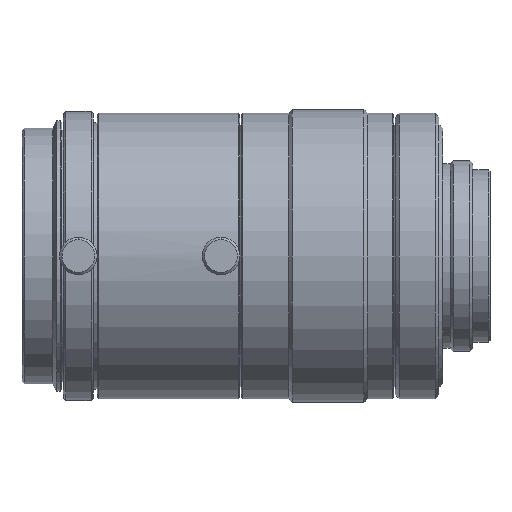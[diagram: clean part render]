
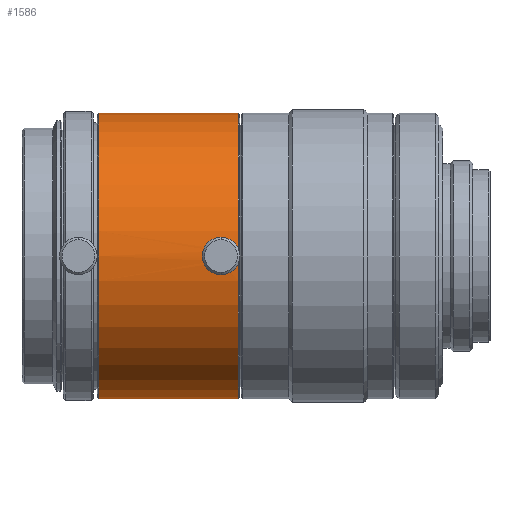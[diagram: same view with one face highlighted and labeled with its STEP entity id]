
A CAD part, front view. The second image highlights one B-rep face of the part: STEP entity #1586.
In plain terms, the highlighted cylindrical face has radius 19 mm (diameter 38 mm), a partial arc.
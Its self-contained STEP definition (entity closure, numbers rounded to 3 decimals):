
#4 = CARTESIAN_POINT ( 'NONE',  ( -47.287, -18.975, 0.974 ) ) ;
#65 = VERTEX_POINT ( 'NONE', #2289 ) ;
#192 = EDGE_CURVE ( 'NONE', #1314, #1153, #3506, .T. ) ;
#196 = CARTESIAN_POINT ( 'NONE',  ( -47.026, -18.974, -1. ) ) ;
#219 = DIRECTION ( 'NONE',  ( 1., 0., 0. ) ) ;
#286 = ORIENTED_EDGE ( 'NONE', *, *, #192, .T. ) ;
#356 = EDGE_CURVE ( 'NONE', #3412, #3391, #1395, .T. ) ;
#447 = AXIS2_PLACEMENT_3D ( 'NONE', #1598, #771, #2419 ) ;
#493 = CARTESIAN_POINT ( 'NONE',  ( -46.152, -18.994, -0.503 ) ) ;
#563 = CARTESIAN_POINT ( 'NONE',  ( -47.026, -18.974, -1. ) ) ;
#569 = CARTESIAN_POINT ( 'NONE',  ( -63.326, 0., 0. ) ) ;
#660 = CARTESIAN_POINT ( 'NONE',  ( 0., 0., 19. ) ) ;
#705 = ORIENTED_EDGE ( 'NONE', *, *, #1484, .F. ) ;
#720 = CARTESIAN_POINT ( 'NONE',  ( -44.726, 0., 19. ) ) ;
#742 = CARTESIAN_POINT ( 'NONE',  ( -46.226, -18.99, -0.614 ) ) ;
#771 = DIRECTION ( 'NONE',  ( 1., 0., 0. ) ) ;
#777 = CARTESIAN_POINT ( 'NONE',  ( -47.641, -18.983, -0.799 ) ) ;
#780 = CARTESIAN_POINT ( 'NONE',  ( -46.523, -18.98, 0.874 ) ) ;
#801 = CARTESIAN_POINT ( 'NONE',  ( -47.825, -18.99, -0.615 ) ) ;
#807 = ORIENTED_EDGE ( 'NONE', *, *, #821, .F. ) ;
#821 = EDGE_CURVE ( 'NONE', #65, #1328, #1515, .T. ) ;
#825 = CARTESIAN_POINT ( 'NONE',  ( -47.288, -18.975, -0.974 ) ) ;
#863 = CARTESIAN_POINT ( 'NONE',  ( 0., 0., -19. ) ) ;
#923 = DIRECTION ( 'NONE',  ( 1., 0., 0. ) ) ;
#932 = AXIS2_PLACEMENT_3D ( 'NONE', #2948, #219, #2409 ) ;
#968 = EDGE_LOOP ( 'NONE', ( #286, #1883 ) ) ;
#1022 = CARTESIAN_POINT ( 'NONE',  ( -63.326, 0., -19. ) ) ;
#1047 = CARTESIAN_POINT ( 'NONE',  ( -47.827, -18.99, 0.614 ) ) ;
#1060 = EDGE_LOOP ( 'NONE', ( #807, #1642, #2842, #705 ) ) ;
#1097 = CIRCLE ( 'NONE', #1242, 19. ) ;
#1098 = CARTESIAN_POINT ( 'NONE',  ( -47.9, -18.994, -0.503 ) ) ;
#1153 = VERTEX_POINT ( 'NONE', #1424 ) ;
#1242 = AXIS2_PLACEMENT_3D ( 'NONE', #569, #2194, #2461 ) ;
#1314 = VERTEX_POINT ( 'NONE', #196 ) ;
#1328 = VERTEX_POINT ( 'NONE', #720 ) ;
#1333 = CARTESIAN_POINT ( 'NONE',  ( -47.53, -18.98, 0.874 ) ) ;
#1379 = CARTESIAN_POINT ( 'NONE',  ( -48.026, -19., 0.13 ) ) ;
#1395 = LINE ( 'NONE', #863, #3123 ) ;
#1424 = CARTESIAN_POINT ( 'NONE',  ( -47.026, -18.974, 1. ) ) ;
#1453 = FACE_OUTER_BOUND ( 'NONE', #1060, .T. ) ;
#1484 = EDGE_CURVE ( 'NONE', #1328, #3391, #3177, .T. ) ;
#1515 = LINE ( 'NONE', #660, #3299 ) ;
#1554 = CARTESIAN_POINT ( 'NONE',  ( -46.412, -18.983, 0.8 ) ) ;
#1586 = ADVANCED_FACE ( 'NONE', ( #1453, #2920 ), #1999, .T. ) ;
#1591 = CARTESIAN_POINT ( 'NONE',  ( -47.026, -18.974, 1. ) ) ;
#1598 = CARTESIAN_POINT ( 'NONE',  ( 0., 0., 0. ) ) ;
#1642 = ORIENTED_EDGE ( 'NONE', *, *, #2149, .T. ) ;
#1847 = CARTESIAN_POINT ( 'NONE',  ( -46.227, -18.99, 0.615 ) ) ;
#1869 = CARTESIAN_POINT ( 'NONE',  ( -47.026, -18.974, 1. ) ) ;
#1883 = ORIENTED_EDGE ( 'NONE', *, *, #3389, .T. ) ;
#1884 = CARTESIAN_POINT ( 'NONE',  ( -46.764, -18.975, 0.974 ) ) ;
#1999 = CYLINDRICAL_SURFACE ( 'NONE', #447, 19. ) ;
#2088 = B_SPLINE_CURVE_WITH_KNOTS ( 'NONE', 3,
 ( #1869, #3221, #1884, #780, #1554, #1847, #2397, #2967, #2986, #3522, #3536, #493, #742, #2428, #2676, #3503 ),
 .UNSPECIFIED., .F., .F.,
 ( 4, 2, 2, 2, 2, 2, 2, 4 ),
 ( 0.003, 0.004, 0.004, 0.004, 0.005, 0.005, 0.005, 0.006 ),
 .UNSPECIFIED. ) ;
#2149 = EDGE_CURVE ( 'NONE', #65, #3412, #1097, .T. ) ;
#2164 = CARTESIAN_POINT ( 'NONE',  ( -47.64, -18.983, 0.8 ) ) ;
#2194 = DIRECTION ( 'NONE',  ( 1., 0., 0. ) ) ;
#2289 = CARTESIAN_POINT ( 'NONE',  ( -63.326, 0., 19. ) ) ;
#2397 = CARTESIAN_POINT ( 'NONE',  ( -46.153, -18.994, 0.505 ) ) ;
#2409 = DIRECTION ( 'NONE',  ( 0., 0., -1. ) ) ;
#2419 = DIRECTION ( 'NONE',  ( 0., 0., -1. ) ) ;
#2428 = CARTESIAN_POINT ( 'NONE',  ( -46.503, -18.98, -0.891 ) ) ;
#2461 = DIRECTION ( 'NONE',  ( 0., 0., -1. ) ) ;
#2472 = CARTESIAN_POINT ( 'NONE',  ( -47.158, -18.974, -1. ) ) ;
#2636 = CARTESIAN_POINT ( 'NONE',  ( -44.726, 0., -19. ) ) ;
#2676 = CARTESIAN_POINT ( 'NONE',  ( -46.762, -18.974, -1. ) ) ;
#2734 = CARTESIAN_POINT ( 'NONE',  ( -48., -18.999, 0.261 ) ) ;
#2764 = CARTESIAN_POINT ( 'NONE',  ( -48., -18.999, -0.262 ) ) ;
#2842 = ORIENTED_EDGE ( 'NONE', *, *, #356, .T. ) ;
#2920 = FACE_BOUND ( 'NONE', #968, .T. ) ;
#2948 = CARTESIAN_POINT ( 'NONE',  ( -44.726, 0., 0. ) ) ;
#2967 = CARTESIAN_POINT ( 'NONE',  ( -46.052, -18.999, 0.263 ) ) ;
#2986 = CARTESIAN_POINT ( 'NONE',  ( -46.026, -19., 0.133 ) ) ;
#3022 = CARTESIAN_POINT ( 'NONE',  ( -48.026, -19., -0.131 ) ) ;
#3123 = VECTOR ( 'NONE', #3508, 1000. ) ;
#3177 = CIRCLE ( 'NONE', #932, 19. ) ;
#3221 = CARTESIAN_POINT ( 'NONE',  ( -46.895, -18.974, 1. ) ) ;
#3267 = CARTESIAN_POINT ( 'NONE',  ( -47.157, -18.974, 1. ) ) ;
#3283 = CARTESIAN_POINT ( 'NONE',  ( -47.53, -18.98, -0.874 ) ) ;
#3299 = VECTOR ( 'NONE', #923, 1000. ) ;
#3389 = EDGE_CURVE ( 'NONE', #1153, #1314, #2088, .T. ) ;
#3391 = VERTEX_POINT ( 'NONE', #2636 ) ;
#3412 = VERTEX_POINT ( 'NONE', #1022 ) ;
#3503 = CARTESIAN_POINT ( 'NONE',  ( -47.026, -18.974, -1. ) ) ;
#3506 = B_SPLINE_CURVE_WITH_KNOTS ( 'NONE', 3,
 ( #563, #2472, #825, #3283, #777, #801, #1098, #2764, #3022, #1379, #2734, #3549, #1047, #2164, #1333, #4, #3267, #1591 ),
 .UNSPECIFIED., .F., .F.,
 ( 4, 2, 2, 2, 2, 2, 2, 2, 4 ),
 ( 0., 0., 0.001, 0.001, 0.002, 0.002, 0.002, 0.003, 0.003 ),
 .UNSPECIFIED. ) ;
#3508 = DIRECTION ( 'NONE',  ( 1., 0., 0. ) ) ;
#3522 = CARTESIAN_POINT ( 'NONE',  ( -46.026, -19., -0.131 ) ) ;
#3536 = CARTESIAN_POINT ( 'NONE',  ( -46.052, -18.999, -0.261 ) ) ;
#3549 = CARTESIAN_POINT ( 'NONE',  ( -47.9, -18.994, 0.503 ) ) ;
